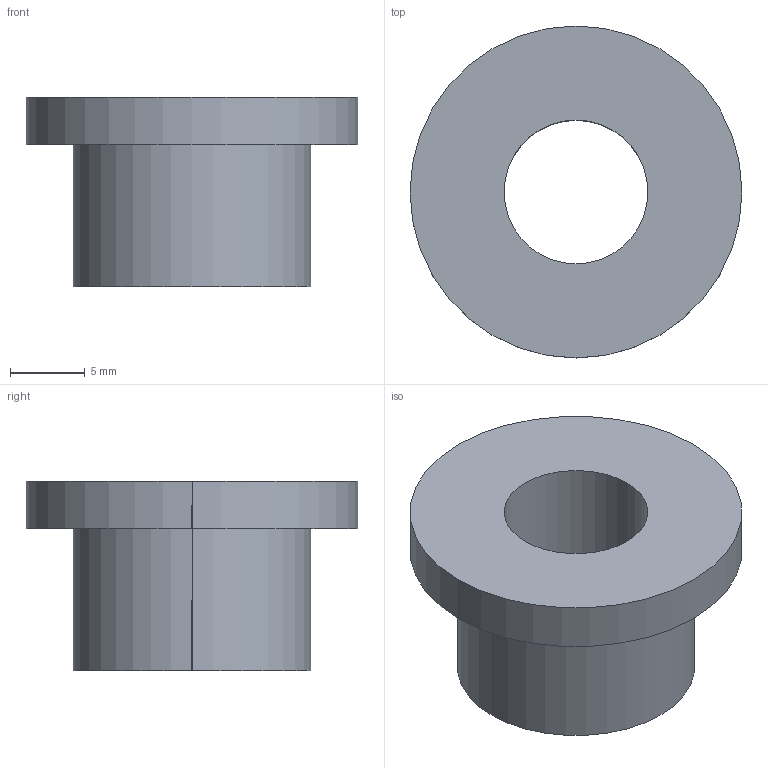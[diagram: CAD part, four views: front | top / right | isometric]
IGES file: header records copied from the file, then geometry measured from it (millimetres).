
Global section: file name: C:\Documents and Settings\Administrator\Desktop\Transfer Temp\bushing-fbp-6-8.igs; native system: AutoDesk Inventor R2.0 ; preprocessor: AutoDesk Inventor Iges Exporter R2.0; author: No Author specified; organization: No Organization specified; date: 20011227.203612; units: inch
Bounding box: 22.23 x 22.23 x 12.7 mm (x, y, z)
Surface area: 1711.9 mm2 (no closed solid volume)
Topology: 0 solids, 0 shells, 9 faces, 36 edges, 36 vertices
Faces by surface type: revolution 6, bspline 3
